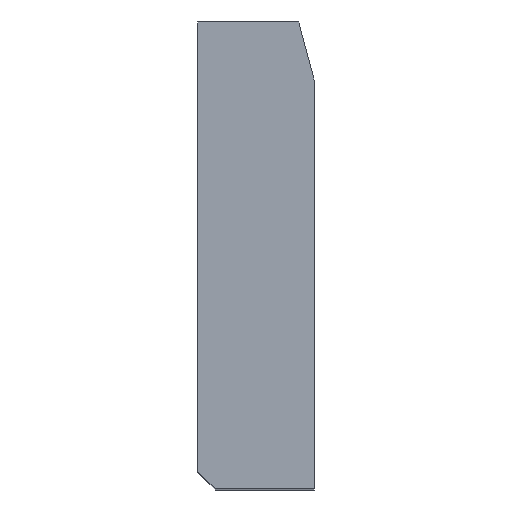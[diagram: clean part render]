
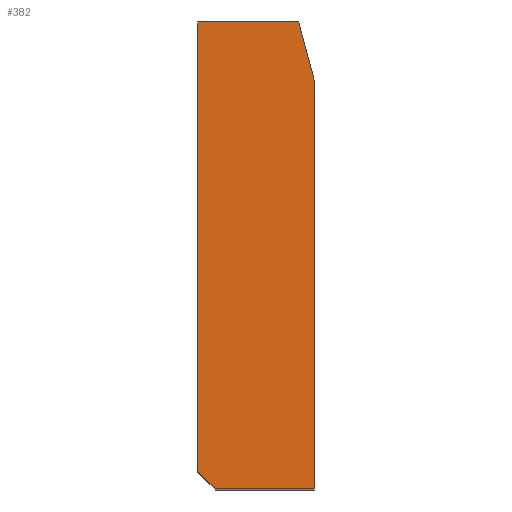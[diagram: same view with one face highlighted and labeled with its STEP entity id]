
A CAD part, top view. The second image highlights one B-rep face of the part: STEP entity #382.
In plain terms, the highlighted planar face has unit normal (0, 0, 1).
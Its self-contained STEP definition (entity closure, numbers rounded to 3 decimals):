
#70=CARTESIAN_POINT('Vertex',(0.,3.,50.)) ;
#73=CARTESIAN_POINT('Line Origine',(0.,41.5,50.)) ;
#77=CARTESIAN_POINT('Vertex',(0.,80.,50.)) ;
#320=CARTESIAN_POINT('Vertex',(3.,0.,50.)) ;
#323=CARTESIAN_POINT('Line Origine',(1.5,1.5,50.)) ;
#335=CARTESIAN_POINT('Axis2P3D Location',(15.,69.342,50.)) ;
#340=CARTESIAN_POINT('Line Origine',(11.5,0.,50.)) ;
#344=CARTESIAN_POINT('Vertex',(20.,0.,50.)) ;
#347=CARTESIAN_POINT('Line Origine',(20.,34.671,50.)) ;
#351=CARTESIAN_POINT('Vertex',(20.,69.342,50.)) ;
#354=CARTESIAN_POINT('Axis2P3D Location',(15.,69.342,50.)) ;
#358=CARTESIAN_POINT('Vertex',(19.83,70.636,50.)) ;
#361=CARTESIAN_POINT('Line Origine',(18.575,75.318,50.)) ;
#365=CARTESIAN_POINT('Vertex',(17.321,80.,50.)) ;
#368=CARTESIAN_POINT('Line Origine',(8.66,80.,50.)) ;
#74=DIRECTION('Vector Direction',(0.,-1.,0.)) ;
#324=DIRECTION('Vector Direction',(0.707,-0.707,0.)) ;
#336=DIRECTION('Axis2P3D Direction',(0.,0.,1.)) ;
#337=DIRECTION('Axis2P3D XDirection',(1.,0.,-0.)) ;
#341=DIRECTION('Vector Direction',(1.,0.,0.)) ;
#348=DIRECTION('Vector Direction',(0.,1.,0.)) ;
#355=DIRECTION('Axis2P3D Direction',(0.,0.,1.)) ;
#362=DIRECTION('Vector Direction',(-0.259,0.966,0.)) ;
#369=DIRECTION('Vector Direction',(-1.,0.,0.)) ;
#338=AXIS2_PLACEMENT_3D('Plane Axis2P3D',#335,#336,#337) ;
#356=AXIS2_PLACEMENT_3D('Circle Axis2P3D',#354,#355,$) ;
#374=ORIENTED_EDGE('',*,*,#79,.T.) ;
#375=ORIENTED_EDGE('',*,*,#327,.T.) ;
#376=ORIENTED_EDGE('',*,*,#346,.T.) ;
#377=ORIENTED_EDGE('',*,*,#353,.T.) ;
#378=ORIENTED_EDGE('',*,*,#360,.T.) ;
#379=ORIENTED_EDGE('',*,*,#367,.T.) ;
#380=ORIENTED_EDGE('',*,*,#372,.T.) ;
#75=VECTOR('Line Direction',#74,1.) ;
#325=VECTOR('Line Direction',#324,1.) ;
#342=VECTOR('Line Direction',#341,1.) ;
#349=VECTOR('Line Direction',#348,1.) ;
#363=VECTOR('Line Direction',#362,1.) ;
#370=VECTOR('Line Direction',#369,1.) ;
#382=ADVANCED_FACE('A915-100X80',(#381),#339,.T.) ;
#357=CIRCLE('generated circle',#356,5.) ;
#79=EDGE_CURVE('',#78,#71,#76,.T.) ;
#327=EDGE_CURVE('',#71,#321,#326,.T.) ;
#346=EDGE_CURVE('',#321,#345,#343,.T.) ;
#353=EDGE_CURVE('',#345,#352,#350,.T.) ;
#360=EDGE_CURVE('',#352,#359,#357,.T.) ;
#367=EDGE_CURVE('',#359,#366,#364,.T.) ;
#372=EDGE_CURVE('',#366,#78,#371,.T.) ;
#373=EDGE_LOOP('',(#374,#375,#376,#377,#378,#379,#380)) ;
#381=FACE_OUTER_BOUND('',#373,.T.) ;
#76=LINE('Line',#73,#75) ;
#326=LINE('Line',#323,#325) ;
#343=LINE('Line',#340,#342) ;
#350=LINE('Line',#347,#349) ;
#364=LINE('Line',#361,#363) ;
#371=LINE('Line',#368,#370) ;
#339=PLANE('Plane',#338) ;
#71=VERTEX_POINT('',#70) ;
#78=VERTEX_POINT('',#77) ;
#321=VERTEX_POINT('',#320) ;
#345=VERTEX_POINT('',#344) ;
#352=VERTEX_POINT('',#351) ;
#359=VERTEX_POINT('',#358) ;
#366=VERTEX_POINT('',#365) ;
